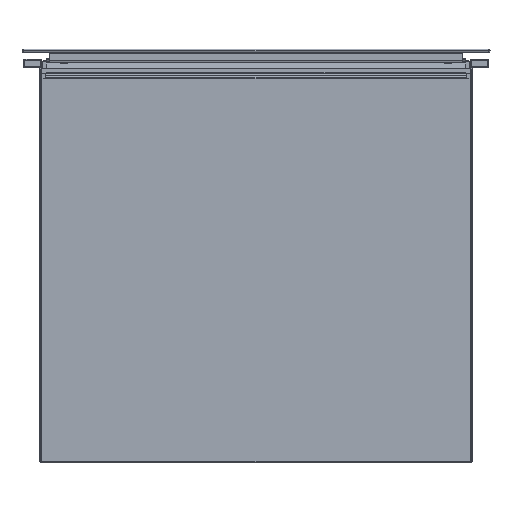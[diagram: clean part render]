
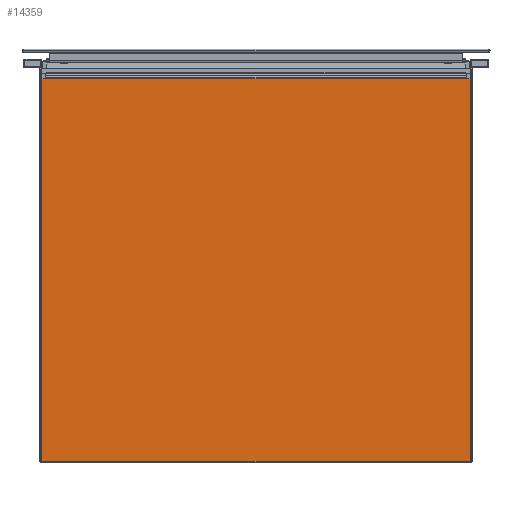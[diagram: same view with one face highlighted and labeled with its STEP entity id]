
A CAD part, front view. The second image highlights one B-rep face of the part: STEP entity #14359.
In plain terms, the highlighted planar face has unit normal (0, -1, 0).
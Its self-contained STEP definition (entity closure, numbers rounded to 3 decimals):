
#1271 = VECTOR ( 'NONE', #6519, 1000. ) ;
#1368 = LINE ( 'NONE', #24537, #14420 ) ;
#1390 = VERTEX_POINT ( 'NONE', #22269 ) ;
#1823 = CARTESIAN_POINT ( 'NONE',  ( -273.15, 0., 243.85 ) ) ;
#1896 = DIRECTION ( 'NONE',  ( 0., 0., 1. ) ) ;
#3188 = VERTEX_POINT ( 'NONE', #25267 ) ;
#3309 = LINE ( 'NONE', #21481, #29598 ) ;
#3329 = ORIENTED_EDGE ( 'NONE', *, *, #21951, .F. ) ;
#3872 = CARTESIAN_POINT ( 'NONE',  ( -273.15, 0., -244.48 ) ) ;
#3951 = LINE ( 'NONE', #24988, #13522 ) ;
#4071 = EDGE_CURVE ( 'NONE', #11249, #26973, #25297, .T. ) ;
#4079 = VERTEX_POINT ( 'NONE', #22873 ) ;
#4118 = LINE ( 'NONE', #22588, #26263 ) ;
#4354 = VECTOR ( 'NONE', #1896, 1000. ) ;
#4681 = EDGE_CURVE ( 'NONE', #6380, #23191, #14160, .T. ) ;
#4886 = ORIENTED_EDGE ( 'NONE', *, *, #26366, .F. ) ;
#5248 = CARTESIAN_POINT ( 'NONE',  ( -268.05, 0., 243.85 ) ) ;
#6380 = VERTEX_POINT ( 'NONE', #9317 ) ;
#6519 = DIRECTION ( 'NONE',  ( 0., 0., -1. ) ) ;
#6614 = CARTESIAN_POINT ( 'NONE',  ( -273.15, 0., 244.16 ) ) ;
#7037 = EDGE_LOOP ( 'NONE', ( #11720, #16494, #29212, #11540, #28764, #29423, #29935, #3329, #7679, #4886 ) ) ;
#7679 = ORIENTED_EDGE ( 'NONE', *, *, #11821, .F. ) ;
#8584 = DIRECTION ( 'NONE',  ( 0., 0., 1. ) ) ;
#8767 = VERTEX_POINT ( 'NONE', #28081 ) ;
#8779 = VECTOR ( 'NONE', #15871, 1000. ) ;
#8846 = CARTESIAN_POINT ( 'NONE',  ( 0., 0., 0. ) ) ;
#9132 = DIRECTION ( 'NONE',  ( 0., 0., 1. ) ) ;
#9317 = CARTESIAN_POINT ( 'NONE',  ( -268.05, 0., 243.85 ) ) ;
#10382 = CARTESIAN_POINT ( 'NONE',  ( -268.05, 0., 244.16 ) ) ;
#10411 = CARTESIAN_POINT ( 'NONE',  ( -273.15, 0., 243.85 ) ) ;
#10591 = DIRECTION ( 'NONE',  ( -1., 0., 0. ) ) ;
#10843 = VERTEX_POINT ( 'NONE', #13912 ) ;
#11249 = VERTEX_POINT ( 'NONE', #10411 ) ;
#11540 = ORIENTED_EDGE ( 'NONE', *, *, #16008, .F. ) ;
#11720 = ORIENTED_EDGE ( 'NONE', *, *, #4681, .F. ) ;
#11821 = EDGE_CURVE ( 'NONE', #1390, #8767, #4118, .T. ) ;
#11900 = DIRECTION ( 'NONE',  ( 0., 0., 1. ) ) ;
#12930 = FACE_OUTER_BOUND ( 'NONE', #7037, .T. ) ;
#12966 = DIRECTION ( 'NONE',  ( 1., 0., 0. ) ) ;
#13522 = VECTOR ( 'NONE', #22716, 1000. ) ;
#13912 = CARTESIAN_POINT ( 'NONE',  ( 273.15, 0., 243.85 ) ) ;
#14160 = LINE ( 'NONE', #5248, #19178 ) ;
#14359 = ADVANCED_FACE ( 'NONE', ( #12930 ), #22475, .F. ) ;
#14420 = VECTOR ( 'NONE', #10591, 1000. ) ;
#14901 = AXIS2_PLACEMENT_3D ( 'NONE', #8846, #22927, #9132 ) ;
#15871 = DIRECTION ( 'NONE',  ( -1., 0., 0. ) ) ;
#16008 = EDGE_CURVE ( 'NONE', #21650, #26973, #29331, .T. ) ;
#16494 = ORIENTED_EDGE ( 'NONE', *, *, #27544, .T. ) ;
#16748 = VECTOR ( 'NONE', #8584, 1000. ) ;
#16794 = EDGE_CURVE ( 'NONE', #3188, #21650, #1368, .T. ) ;
#19178 = VECTOR ( 'NONE', #11900, 1000. ) ;
#20356 = LINE ( 'NONE', #29751, #4354 ) ;
#21481 = CARTESIAN_POINT ( 'NONE',  ( 273.15, 0., -244.48 ) ) ;
#21495 = EDGE_CURVE ( 'NONE', #4079, #10843, #20356, .T. ) ;
#21650 = VERTEX_POINT ( 'NONE', #3872 ) ;
#21951 = EDGE_CURVE ( 'NONE', #8767, #10843, #3951, .T. ) ;
#22264 = LINE ( 'NONE', #29673, #8779 ) ;
#22269 = CARTESIAN_POINT ( 'NONE',  ( 268.05, 0., 244.16 ) ) ;
#22475 = PLANE ( 'NONE',  #14901 ) ;
#22588 = CARTESIAN_POINT ( 'NONE',  ( 268.05, 0., 244.16 ) ) ;
#22716 = DIRECTION ( 'NONE',  ( 1., 0., 0. ) ) ;
#22824 = VECTOR ( 'NONE', #12966, 1000. ) ;
#22873 = CARTESIAN_POINT ( 'NONE',  ( 273.15, 0., -243.85 ) ) ;
#22927 = DIRECTION ( 'NONE',  ( 0., 1., 0. ) ) ;
#22928 = CARTESIAN_POINT ( 'NONE',  ( -273.15, 0., -243.85 ) ) ;
#23191 = VERTEX_POINT ( 'NONE', #10382 ) ;
#24202 = DIRECTION ( 'NONE',  ( 0., 0., 1. ) ) ;
#24537 = CARTESIAN_POINT ( 'NONE',  ( 273.15, 0., -244.48 ) ) ;
#24988 = CARTESIAN_POINT ( 'NONE',  ( 268.05, 0., 243.85 ) ) ;
#25267 = CARTESIAN_POINT ( 'NONE',  ( 273.15, 0., -244.48 ) ) ;
#25297 = LINE ( 'NONE', #1823, #1271 ) ;
#26263 = VECTOR ( 'NONE', #29704, 1000. ) ;
#26366 = EDGE_CURVE ( 'NONE', #23191, #1390, #29192, .T. ) ;
#26973 = VERTEX_POINT ( 'NONE', #22928 ) ;
#27505 = CARTESIAN_POINT ( 'NONE',  ( -273.15, 0., -244.48 ) ) ;
#27544 = EDGE_CURVE ( 'NONE', #6380, #11249, #22264, .T. ) ;
#27852 = EDGE_CURVE ( 'NONE', #3188, #4079, #3309, .T. ) ;
#28081 = CARTESIAN_POINT ( 'NONE',  ( 268.05, 0., 243.85 ) ) ;
#28764 = ORIENTED_EDGE ( 'NONE', *, *, #16794, .F. ) ;
#29192 = LINE ( 'NONE', #6614, #22824 ) ;
#29212 = ORIENTED_EDGE ( 'NONE', *, *, #4071, .T. ) ;
#29331 = LINE ( 'NONE', #27505, #16748 ) ;
#29423 = ORIENTED_EDGE ( 'NONE', *, *, #27852, .T. ) ;
#29598 = VECTOR ( 'NONE', #24202, 1000. ) ;
#29673 = CARTESIAN_POINT ( 'NONE',  ( -268.05, 0., 243.85 ) ) ;
#29704 = DIRECTION ( 'NONE',  ( 0., 0., -1. ) ) ;
#29751 = CARTESIAN_POINT ( 'NONE',  ( 273.15, 0., -243.85 ) ) ;
#29935 = ORIENTED_EDGE ( 'NONE', *, *, #21495, .T. ) ;
